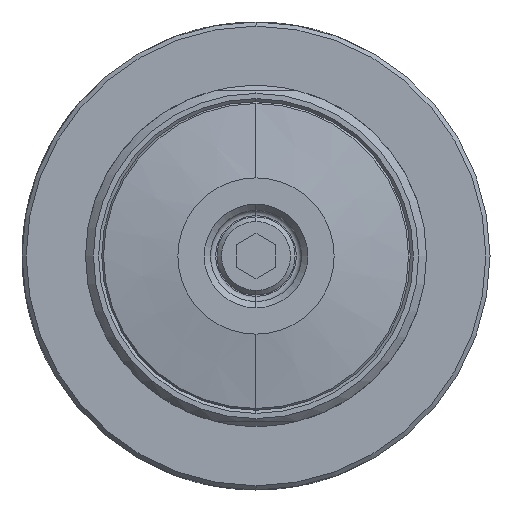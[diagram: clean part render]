
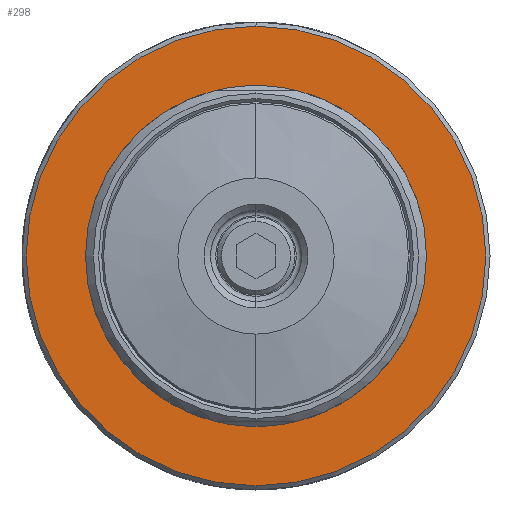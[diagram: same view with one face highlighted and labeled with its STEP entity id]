
A CAD part, left-side view. The second image highlights one B-rep face of the part: STEP entity #298.
In plain terms, the highlighted planar face has unit normal (-1, 0, 0).
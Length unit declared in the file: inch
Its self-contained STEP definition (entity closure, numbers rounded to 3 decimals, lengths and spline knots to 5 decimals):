
#49 = VERTEX_POINT ( 'NONE', #7144 ) ;
#51 = EDGE_CURVE ( 'NONE', #49, #52, #7143, .T. ) ;
#52 = VERTEX_POINT ( 'NONE', #7184 ) ;
#297 = EDGE_CURVE ( 'NONE', #52, #49, #7715, .T. ) ;
#298 = ADVANCED_FACE ( 'NONE', ( #7710, #7709 ), #7708, .T. ) ;
#299 = EDGE_LOOP ( 'NONE', ( #300, #355 ) ) ;
#300 = ORIENTED_EDGE ( 'NONE', *, *, #301, .T. ) ;
#301 = EDGE_CURVE ( 'NONE', #6547, #6546, #7703, .T. ) ;
#355 = ORIENTED_EDGE ( 'NONE', *, *, #6544, .T. ) ;
#356 = EDGE_LOOP ( 'NONE', ( #357, #358 ) ) ;
#357 = ORIENTED_EDGE ( 'NONE', *, *, #297, .F. ) ;
#358 = ORIENTED_EDGE ( 'NONE', *, *, #51, .F. ) ;
#6544 = EDGE_CURVE ( 'NONE', #6546, #6547, #13255, .T. ) ;
#6546 = VERTEX_POINT ( 'NONE', #13250 ) ;
#6547 = VERTEX_POINT ( 'NONE', #13249 ) ;
#7143 = CIRCLE ( 'NONE', #7188, 0.81 ) ;
#7144 = CARTESIAN_POINT ( 'NONE',  ( -0.562, 0., -0.81 ) ) ;
#7184 = CARTESIAN_POINT ( 'NONE',  ( -0.562, 0., 0.81 ) ) ;
#7185 = DIRECTION ( 'NONE',  ( 0., 0., 1. ) ) ;
#7186 = DIRECTION ( 'NONE',  ( -1., 0., 0. ) ) ;
#7187 = CARTESIAN_POINT ( 'NONE',  ( -0.562, 0., 0. ) ) ;
#7188 = AXIS2_PLACEMENT_3D ( 'NONE', #7187, #7186, #7185 ) ;
#7699 = DIRECTION ( 'NONE',  ( 0., 0., 1. ) ) ;
#7700 = DIRECTION ( 'NONE',  ( -1., 0., 0. ) ) ;
#7701 = CARTESIAN_POINT ( 'NONE',  ( -0.562, 0., 0. ) ) ;
#7702 = AXIS2_PLACEMENT_3D ( 'NONE', #7701, #7700, #7699 ) ;
#7703 = CIRCLE ( 'NONE', #7702, 1.1025 ) ;
#7704 = DIRECTION ( 'NONE',  ( 0., 0., 1. ) ) ;
#7705 = DIRECTION ( 'NONE',  ( -1., 0., 0. ) ) ;
#7706 = CARTESIAN_POINT ( 'NONE',  ( -0.562, 0.81, 0. ) ) ;
#7707 = AXIS2_PLACEMENT_3D ( 'NONE', #7706, #7705, #7704 ) ;
#7708 = PLANE ( 'NONE',  #7707 ) ;
#7709 = FACE_BOUND ( 'NONE', #356, .T. ) ;
#7710 = FACE_OUTER_BOUND ( 'NONE', #299, .T. ) ;
#7711 = DIRECTION ( 'NONE',  ( 0., 0., 1. ) ) ;
#7712 = DIRECTION ( 'NONE',  ( -1., 0., 0. ) ) ;
#7713 = CARTESIAN_POINT ( 'NONE',  ( -0.562, 0., 0. ) ) ;
#7714 = AXIS2_PLACEMENT_3D ( 'NONE', #7713, #7712, #7711 ) ;
#7715 = CIRCLE ( 'NONE', #7714, 0.81 ) ;
#13249 = CARTESIAN_POINT ( 'NONE',  ( -0.562, 0., -1.1025 ) ) ;
#13250 = CARTESIAN_POINT ( 'NONE',  ( -0.562, 0., 1.1025 ) ) ;
#13251 = DIRECTION ( 'NONE',  ( 0., 0., 1. ) ) ;
#13252 = DIRECTION ( 'NONE',  ( -1., 0., 0. ) ) ;
#13253 = CARTESIAN_POINT ( 'NONE',  ( -0.562, 0., 0. ) ) ;
#13254 = AXIS2_PLACEMENT_3D ( 'NONE', #13253, #13252, #13251 ) ;
#13255 = CIRCLE ( 'NONE', #13254, 1.1025 ) ;
